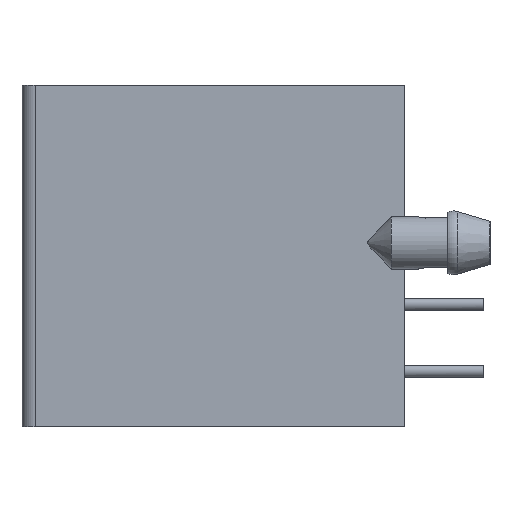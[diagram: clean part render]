
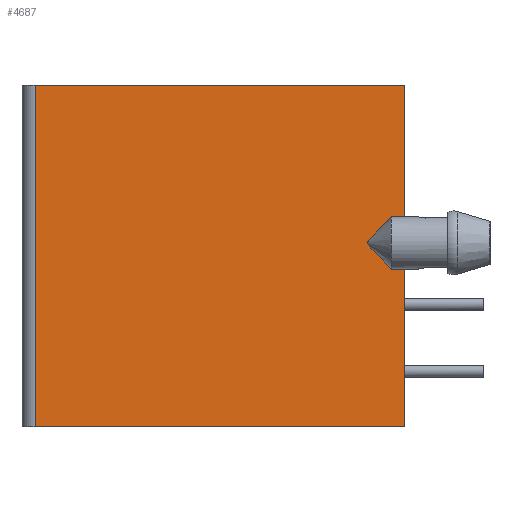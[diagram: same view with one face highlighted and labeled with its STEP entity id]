
A CAD part, left-side view. The second image highlights one B-rep face of the part: STEP entity #4687.
In plain terms, the highlighted planar face has unit normal (-1, 0, 0).
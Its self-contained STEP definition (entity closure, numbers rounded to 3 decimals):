
#565=PLANE('',#15961);
#2069=LINE('',#24015,#3695);
#2078=LINE('',#24035,#3704);
#2104=LINE('',#24097,#3730);
#2107=LINE('',#24127,#3733);
#2108=LINE('',#24129,#3734);
#2109=LINE('',#24131,#3735);
#2110=LINE('',#24132,#3736);
#3695=VECTOR('',#19160,1.);
#3704=VECTOR('',#19175,1.);
#3730=VECTOR('',#19243,1.);
#3733=VECTOR('',#19252,1.);
#3734=VECTOR('',#19253,1.);
#3735=VECTOR('',#19254,1.);
#3736=VECTOR('',#19255,1.);
#4188=B_SPLINE_CURVE_WITH_KNOTS('',3,(#24104,#24105,#24106,#24107,#24108,
#24109,#24110,#24111,#24112,#24113,#24114,#24115,#24116,#24117,#24118,#24119,
#24120,#24121,#24122,#24123,#24124,#24125),.UNSPECIFIED.,.F.,.F.,(4,3,3,
3,3,3,3,4),(0.,0.435,0.483,0.498,0.513,
0.535,0.64,1.),.UNSPECIFIED.);
#4687=ADVANCED_FACE('',(#5503),#565,.T.);
#5503=FACE_OUTER_BOUND('',#6274,.T.);
#6274=EDGE_LOOP('',(#9325,#9326,#9327,#9328,#9329,#9330,#9331,#9332));
#9325=ORIENTED_EDGE('',*,*,#13982,.F.);
#9326=ORIENTED_EDGE('',*,*,#13945,.T.);
#9327=ORIENTED_EDGE('',*,*,#13934,.T.);
#9328=ORIENTED_EDGE('',*,*,#13977,.T.);
#9329=ORIENTED_EDGE('',*,*,#13983,.F.);
#9330=ORIENTED_EDGE('',*,*,#13984,.T.);
#9331=ORIENTED_EDGE('',*,*,#13981,.F.);
#9332=ORIENTED_EDGE('',*,*,#13985,.T.);
#11985=VERTEX_POINT('',#24016);
#11986=VERTEX_POINT('',#24017);
#11993=VERTEX_POINT('',#24036);
#12007=VERTEX_POINT('',#24096);
#12008=VERTEX_POINT('',#24102);
#12009=VERTEX_POINT('',#24103);
#12010=VERTEX_POINT('',#24128);
#12011=VERTEX_POINT('',#24130);
#13934=EDGE_CURVE('',#11985,#11986,#2069,.T.);
#13945=EDGE_CURVE('',#11993,#11985,#2078,.T.);
#13977=EDGE_CURVE('',#11986,#12007,#2104,.T.);
#13981=EDGE_CURVE('',#12008,#12009,#4188,.T.);
#13982=EDGE_CURVE('',#11993,#12010,#2107,.T.);
#13983=EDGE_CURVE('',#12011,#12007,#2108,.T.);
#13984=EDGE_CURVE('',#12011,#12009,#2109,.T.);
#13985=EDGE_CURVE('',#12008,#12010,#2110,.T.);
#15961=AXIS2_PLACEMENT_3D('',#24133,#19256,#19257);
#19160=DIRECTION('',(0.,0.,-1.));
#19175=DIRECTION('',(0.,1.,0.));
#19243=DIRECTION('',(0.,-1.,0.));
#19252=DIRECTION('',(0.,0.,-1.));
#19253=DIRECTION('',(0.,0.,-1.));
#19254=DIRECTION('',(0.,1.,0.));
#19255=DIRECTION('',(0.,-1.,0.));
#19256=DIRECTION('',(-1.,0.,0.));
#19257=DIRECTION('',(0.,0.,-1.));
#24015=CARTESIAN_POINT('',(610.146,1490.969,0.));
#24016=CARTESIAN_POINT('',(610.146,1490.969,0.));
#24017=CARTESIAN_POINT('',(610.146,1490.969,-13.));
#24035=CARTESIAN_POINT('',(610.146,1476.919,0.));
#24036=CARTESIAN_POINT('',(610.146,1476.919,0.));
#24096=CARTESIAN_POINT('',(610.146,1476.919,-13.));
#24097=CARTESIAN_POINT('',(610.146,1490.969,-13.));
#24102=CARTESIAN_POINT('',(610.146,1477.419,-5.005));
#24103=CARTESIAN_POINT('',(610.146,1477.419,-6.995));
#24104=CARTESIAN_POINT('',(610.146,1477.419,-5.005));
#24105=CARTESIAN_POINT('',(610.146,1477.695,-5.282));
#24106=CARTESIAN_POINT('',(610.146,1477.985,-5.547));
#24107=CARTESIAN_POINT('',(610.146,1478.236,-5.846));
#24108=CARTESIAN_POINT('',(610.146,1478.263,-5.879));
#24109=CARTESIAN_POINT('',(610.146,1478.292,-5.913));
#24110=CARTESIAN_POINT('',(610.146,1478.309,-5.953));
#24111=CARTESIAN_POINT('',(610.146,1478.314,-5.965));
#24112=CARTESIAN_POINT('',(610.146,1478.318,-5.978));
#24113=CARTESIAN_POINT('',(610.146,1478.319,-5.992));
#24114=CARTESIAN_POINT('',(610.146,1478.32,-6.005));
#24115=CARTESIAN_POINT('',(610.146,1478.318,-6.019));
#24116=CARTESIAN_POINT('',(610.146,1478.314,-6.032));
#24117=CARTESIAN_POINT('',(610.146,1478.309,-6.051));
#24118=CARTESIAN_POINT('',(610.146,1478.299,-6.069));
#24119=CARTESIAN_POINT('',(610.146,1478.288,-6.085));
#24120=CARTESIAN_POINT('',(610.146,1478.237,-6.164));
#24121=CARTESIAN_POINT('',(610.146,1478.168,-6.231));
#24122=CARTESIAN_POINT('',(610.146,1478.103,-6.3));
#24123=CARTESIAN_POINT('',(610.146,1477.88,-6.536));
#24124=CARTESIAN_POINT('',(610.146,1477.649,-6.765));
#24125=CARTESIAN_POINT('',(610.146,1477.419,-6.995));
#24127=CARTESIAN_POINT('',(610.146,1476.919,0.));
#24128=CARTESIAN_POINT('',(610.146,1476.919,-5.005));
#24129=CARTESIAN_POINT('',(610.146,1476.919,-6.995));
#24130=CARTESIAN_POINT('',(610.146,1476.919,-6.995));
#24131=CARTESIAN_POINT('',(610.146,1477.419,-6.995));
#24132=CARTESIAN_POINT('',(610.146,1477.419,-5.005));
#24133=CARTESIAN_POINT('',(610.146,1490.469,-3.6));
